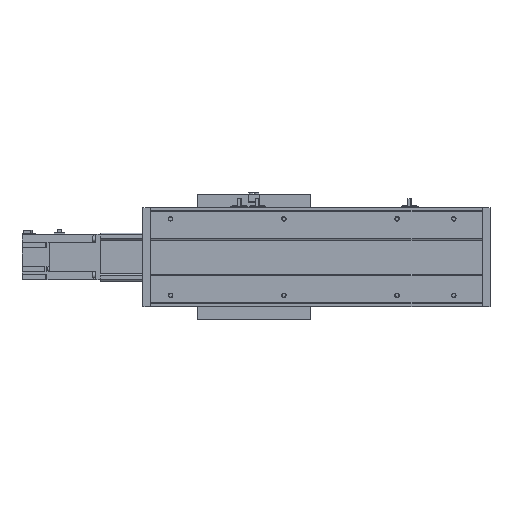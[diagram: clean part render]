
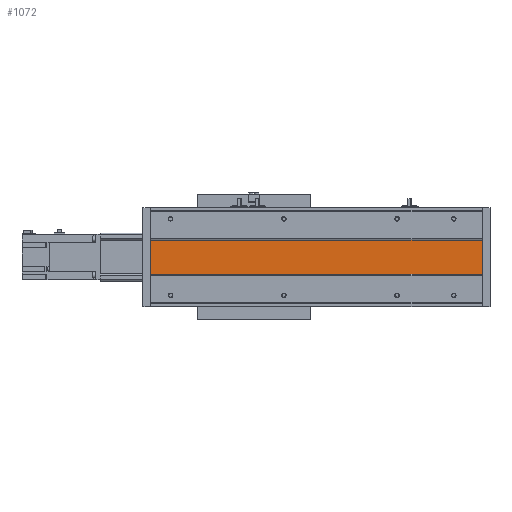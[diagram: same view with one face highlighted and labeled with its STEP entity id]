
A CAD part, front view. The second image highlights one B-rep face of the part: STEP entity #1072.
In plain terms, the highlighted planar face has unit normal (0, -1, 0).
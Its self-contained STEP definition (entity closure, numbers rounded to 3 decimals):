
#1072 = ADVANCED_FACE( '', ( #2411 ), #2412, .F. );
#2411 = FACE_OUTER_BOUND( '', #4112, .T. );
#2412 = PLANE( '', #4113 );
#4112 = EDGE_LOOP( '', ( #7035, #7036, #7037, #7038 ) );
#4113 = AXIS2_PLACEMENT_3D( '', #7039, #7040, #7041 );
#7035 = ORIENTED_EDGE( '', *, *, #10155, .F. );
#7036 = ORIENTED_EDGE( '', *, *, #10918, .T. );
#7037 = ORIENTED_EDGE( '', *, *, #9967, .T. );
#7038 = ORIENTED_EDGE( '', *, *, #10897, .F. );
#7039 = CARTESIAN_POINT( '', ( 613., 1., 30. ) );
#7040 = DIRECTION( '', ( 0., 1., 0. ) );
#7041 = DIRECTION( '', ( 0., 0., 1. ) );
#9967 = EDGE_CURVE( '', #11889, #11887, #11890, .T. );
#10155 = EDGE_CURVE( '', #12225, #12227, #12228, .T. );
#10897 = EDGE_CURVE( '', #12227, #11887, #13423, .T. );
#10918 = EDGE_CURVE( '', #12225, #11889, #13451, .T. );
#11887 = VERTEX_POINT( '', #14691 );
#11889 = VERTEX_POINT( '', #14694 );
#11890 = LINE( '', #14695, #14696 );
#12225 = VERTEX_POINT( '', #15159 );
#12227 = VERTEX_POINT( '', #15162 );
#12228 = LINE( '', #15163, #15164 );
#13423 = LINE( '', #16848, #16849 );
#13451 = LINE( '', #16932, #16933 );
#14691 = CARTESIAN_POINT( '', ( 14., 1., -30. ) );
#14694 = CARTESIAN_POINT( '', ( 14., 1., 30. ) );
#14695 = CARTESIAN_POINT( '', ( 14., 1., 30. ) );
#14696 = VECTOR( '', #18379, 1000. );
#15159 = CARTESIAN_POINT( '', ( 599., 1., 30. ) );
#15162 = CARTESIAN_POINT( '', ( 599., 1., -30. ) );
#15163 = CARTESIAN_POINT( '', ( 599., 1., 30. ) );
#15164 = VECTOR( '', #18593, 1000. );
#16848 = CARTESIAN_POINT( '', ( 613., 1., -30. ) );
#16849 = VECTOR( '', #19413, 1000. );
#16932 = CARTESIAN_POINT( '', ( 613., 1., 30. ) );
#16933 = VECTOR( '', #19430, 1000. );
#18379 = DIRECTION( '', ( 0., 0., -1. ) );
#18593 = DIRECTION( '', ( 0., 0., -1. ) );
#19413 = DIRECTION( '', ( -1., 0., 0. ) );
#19430 = DIRECTION( '', ( -1., 0., 0. ) );
